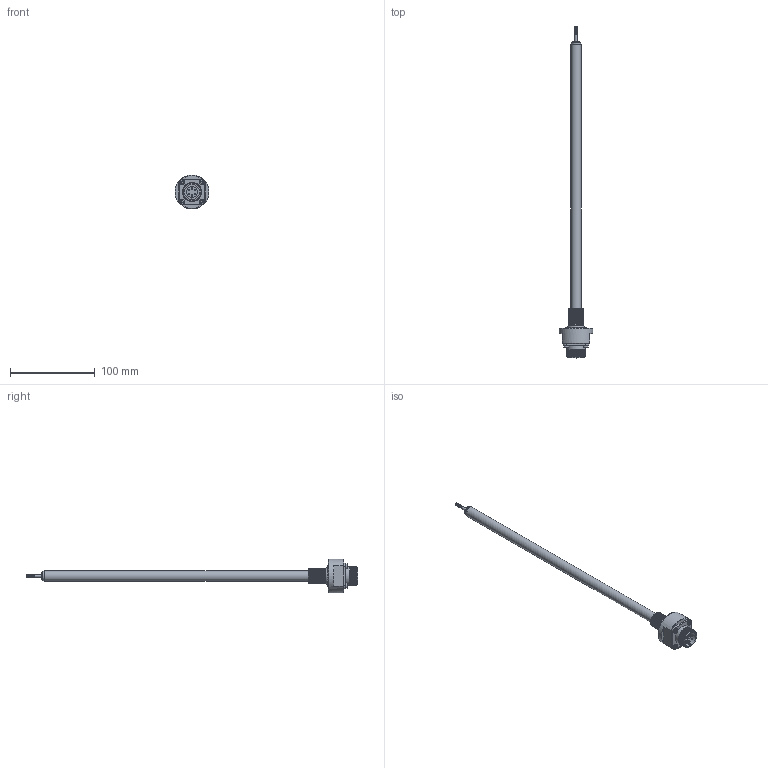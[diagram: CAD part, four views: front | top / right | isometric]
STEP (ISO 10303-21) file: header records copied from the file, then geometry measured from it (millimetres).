
FILE_DESCRIPTION( ( 'Unknown' ), '1' );
FILE_NAME( 'N:/Engineering/CAD/LVDT/HYD/Kunden-3D-Modell/SM160-HYD-18-S.stp', 'Unknown', ( 'Unknown' ), ( 'Unknown' ), 'PSStep 17.0.49', 'Unknown', ' ' );
FILE_SCHEMA( ( 'AUTOMOTIVE_DESIGN { 1 0 10303 214 1 1 1 1 }' ) );
Length unit declared in the file: millimetre
Products named in the file (9): Assem1; Endkappe; Innenrohr_SM5-HYD; Kernverlängerung_SM5-HYD; SM-HYD-Flansch_M18_vereinfacht; O-Ring_15,4x2,1; MIL-Stecker_2; DIN7985_M3-6_Torx; Aussenrohr_SM160-HYD_vereinfacht
Assembly tree (11 placements, depth 2):
  Assem1
    Endkappe
    Innenrohr_SM5-HYD
    Kernverlängerung_SM5-HYD
    SM-HYD-Flansch_M18_vereinfacht
    O-Ring_15,4x2,1
    MIL-Stecker_2
    DIN7985_M3-6_Torx  x4
    Aussenrohr_SM160-HYD_vereinfacht
Bounding box: 40 x 391.9 x 40 mm (x, y, z)
Volume: 67495.5 mm3; surface area: 30743.8 mm2
Topology: 11 solids, 11 shells, 255 faces, 589 edges, 385 vertices
Faces by surface type: plane 132, cylinder 82, cone 22, bspline 14, sphere 4, torus 1
Full cylindrical faces by diameter (mm): 1.4 x6, 1.6 x6, 2.013 x1, 2.4 x1, 2.5 x8, 3 x9, 4 x1, 6 x6, 8 x1, 10 x1, 11 x2, 12 x3, 13 x1, 15.8 x1, 17.6 x1, 18.8 x1, 20.2 x1, 22.3 x7, 24 x1, 40 x1
Entity records: 13563 total; most frequent: CARTESIAN_POINT 8176, DIRECTION 792, ORIENTED_EDGE 656, AXIS2_PLACEMENT_3D 336, EDGE_CURVE 328, EDGE_LOOP 289, VERTEX_POINT 255, FACE_OUTER_BOUND 236
